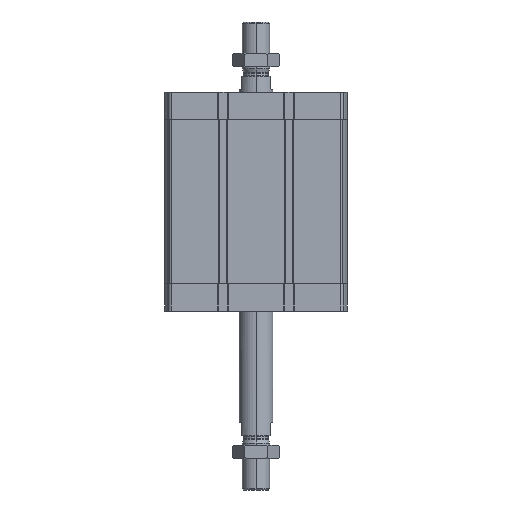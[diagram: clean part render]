
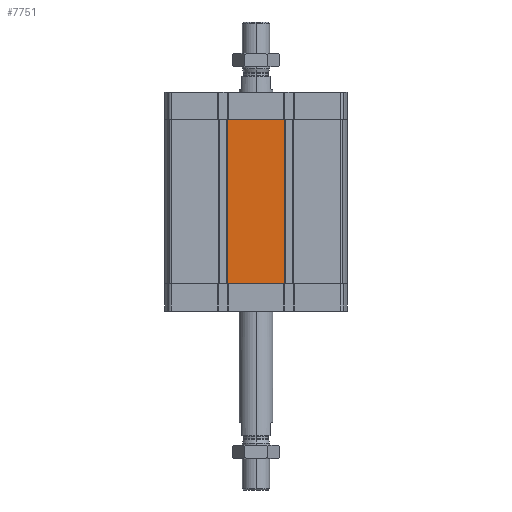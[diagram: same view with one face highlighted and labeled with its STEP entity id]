
A CAD part, left-side view. The second image highlights one B-rep face of the part: STEP entity #7751.
In plain terms, the highlighted planar face has unit normal (-1, 0, 0).
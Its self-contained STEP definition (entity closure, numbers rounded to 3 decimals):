
#67 = LINE ( 'NONE', #6092, #13066 ) ;
#319 = LINE ( 'NONE', #7937, #19456 ) ;
#352 = VECTOR ( 'NONE', #11478, 1000. ) ;
#801 = ORIENTED_EDGE ( 'NONE', *, *, #8008, .F. ) ;
#1260 = ORIENTED_EDGE ( 'NONE', *, *, #17287, .F. ) ;
#1270 = VERTEX_POINT ( 'NONE', #5980 ) ;
#1517 = VECTOR ( 'NONE', #5696, 1000. ) ;
#1562 = CARTESIAN_POINT ( 'NONE',  ( -67., 20.687, -141. ) ) ;
#2316 = CARTESIAN_POINT ( 'NONE',  ( -67., -21.3, -20. ) ) ;
#3580 = EDGE_CURVE ( 'NONE', #5243, #19393, #67, .T. ) ;
#3635 = ORIENTED_EDGE ( 'NONE', *, *, #9081, .F. ) ;
#3675 = DIRECTION ( 'NONE',  ( -1., 0., 0. ) ) ;
#3885 = CARTESIAN_POINT ( 'NONE',  ( -67., -21.3, -141. ) ) ;
#5164 = PLANE ( 'NONE',  #11661 ) ;
#5243 = VERTEX_POINT ( 'NONE', #12508 ) ;
#5660 = EDGE_CURVE ( 'NONE', #15236, #10726, #9422, .T. ) ;
#5696 = DIRECTION ( 'NONE',  ( 0., 0., 1. ) ) ;
#5827 = LINE ( 'NONE', #15055, #8736 ) ;
#5911 = CARTESIAN_POINT ( 'NONE',  ( -67., 67., -20. ) ) ;
#5980 = CARTESIAN_POINT ( 'NONE',  ( -67., 20.687, -20. ) ) ;
#6092 = CARTESIAN_POINT ( 'NONE',  ( -67., 67., -141. ) ) ;
#6102 = DIRECTION ( 'NONE',  ( 0., -1., 0. ) ) ;
#6439 = CARTESIAN_POINT ( 'NONE',  ( -67., -21.3, -141. ) ) ;
#7484 = LINE ( 'NONE', #14924, #11278 ) ;
#7751 = ADVANCED_FACE ( 'NONE', ( #11312 ), #5164, .T. ) ;
#7937 = CARTESIAN_POINT ( 'NONE',  ( -67., 21.3, -141. ) ) ;
#8008 = EDGE_CURVE ( 'NONE', #5243, #11645, #19282, .T. ) ;
#8162 = ORIENTED_EDGE ( 'NONE', *, *, #19197, .F. ) ;
#8409 = EDGE_LOOP ( 'NONE', ( #801, #11982, #10828, #11855, #10598, #3635, #8162, #1260 ) ) ;
#8736 = VECTOR ( 'NONE', #17826, 1000. ) ;
#8923 = VERTEX_POINT ( 'NONE', #12360 ) ;
#9081 = EDGE_CURVE ( 'NONE', #8923, #10726, #7484, .T. ) ;
#9422 = LINE ( 'NONE', #6439, #14154 ) ;
#10598 = ORIENTED_EDGE ( 'NONE', *, *, #5660, .T. ) ;
#10726 = VERTEX_POINT ( 'NONE', #2316 ) ;
#10828 = ORIENTED_EDGE ( 'NONE', *, *, #15468, .T. ) ;
#11278 = VECTOR ( 'NONE', #16614, 1000. ) ;
#11288 = VERTEX_POINT ( 'NONE', #12781 ) ;
#11312 = FACE_OUTER_BOUND ( 'NONE', #8409, .T. ) ;
#11406 = DIRECTION ( 'NONE',  ( 0., 0., 1. ) ) ;
#11478 = DIRECTION ( 'NONE',  ( 0., -1., 0. ) ) ;
#11645 = VERTEX_POINT ( 'NONE', #14815 ) ;
#11661 = AXIS2_PLACEMENT_3D ( 'NONE', #18745, #3675, #11406 ) ;
#11672 = LINE ( 'NONE', #14755, #352 ) ;
#11855 = ORIENTED_EDGE ( 'NONE', *, *, #17195, .T. ) ;
#11982 = ORIENTED_EDGE ( 'NONE', *, *, #3580, .T. ) ;
#12360 = CARTESIAN_POINT ( 'NONE',  ( -67., -20.687, -20. ) ) ;
#12392 = DIRECTION ( 'NONE',  ( 0., -1., 0. ) ) ;
#12508 = CARTESIAN_POINT ( 'NONE',  ( -67., 21.3, -141. ) ) ;
#12781 = CARTESIAN_POINT ( 'NONE',  ( -67., -20.687, -141. ) ) ;
#13066 = VECTOR ( 'NONE', #18295, 1000. ) ;
#13641 = VECTOR ( 'NONE', #6102, 1000. ) ;
#14154 = VECTOR ( 'NONE', #15369, 1000. ) ;
#14755 = CARTESIAN_POINT ( 'NONE',  ( -67., 67., -141. ) ) ;
#14815 = CARTESIAN_POINT ( 'NONE',  ( -67., 21.3, -20. ) ) ;
#14924 = CARTESIAN_POINT ( 'NONE',  ( -67., 67., -20. ) ) ;
#15055 = CARTESIAN_POINT ( 'NONE',  ( -67., 21.3, -20. ) ) ;
#15138 = LINE ( 'NONE', #5911, #13641 ) ;
#15213 = CARTESIAN_POINT ( 'NONE',  ( -67., 21.3, -141. ) ) ;
#15236 = VERTEX_POINT ( 'NONE', #3885 ) ;
#15369 = DIRECTION ( 'NONE',  ( 0., 0., 1. ) ) ;
#15468 = EDGE_CURVE ( 'NONE', #19393, #11288, #319, .T. ) ;
#16614 = DIRECTION ( 'NONE',  ( 0., -1., 0. ) ) ;
#17195 = EDGE_CURVE ( 'NONE', #11288, #15236, #11672, .T. ) ;
#17287 = EDGE_CURVE ( 'NONE', #11645, #1270, #15138, .T. ) ;
#17826 = DIRECTION ( 'NONE',  ( 0., -1., 0. ) ) ;
#18295 = DIRECTION ( 'NONE',  ( 0., -1., 0. ) ) ;
#18745 = CARTESIAN_POINT ( 'NONE',  ( -67., 67., -141. ) ) ;
#19197 = EDGE_CURVE ( 'NONE', #1270, #8923, #5827, .T. ) ;
#19282 = LINE ( 'NONE', #15213, #1517 ) ;
#19393 = VERTEX_POINT ( 'NONE', #1562 ) ;
#19456 = VECTOR ( 'NONE', #12392, 1000. ) ;
